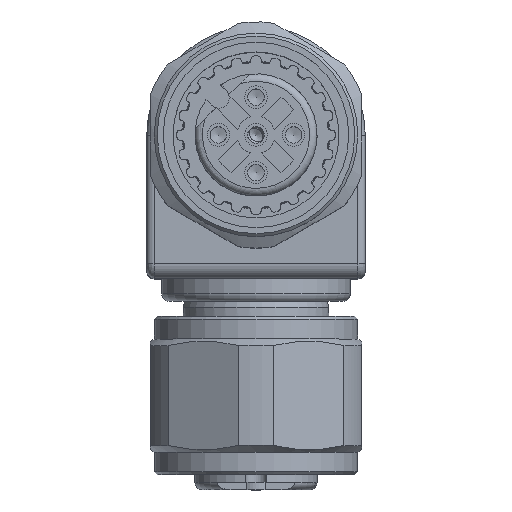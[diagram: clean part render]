
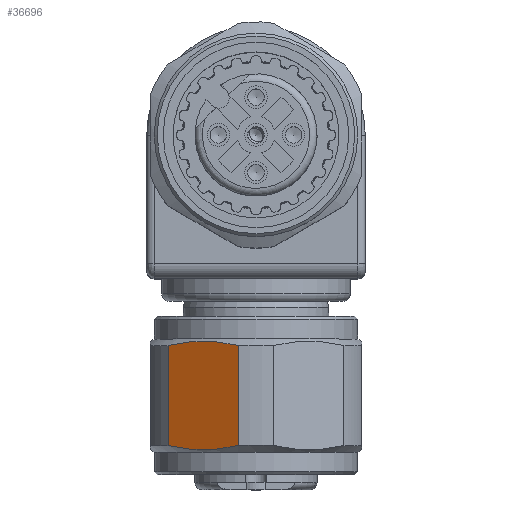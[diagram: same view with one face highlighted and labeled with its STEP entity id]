
A CAD part, top view. The second image highlights one B-rep face of the part: STEP entity #36696.
In plain terms, the highlighted planar face has unit normal (-0.5, 0, 0.866).
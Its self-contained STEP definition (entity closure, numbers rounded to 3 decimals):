
#36643=CARTESIAN_POINT('',(-18.095,-26.723,18.485));
#36644=DIRECTION('',(-0.5,0.,0.866));
#36645=DIRECTION('',(0.866,0.,0.5));
#36646=AXIS2_PLACEMENT_3D('',#36643,#36644,#36645);
#36647=PLANE('',#36646);
#36648=CARTESIAN_POINT('',(-19.263,-18.156,17.811));
#36649=VERTEX_POINT('',#36648);
#36650=CARTESIAN_POINT('',(-23.926,-18.156,15.118));
#36651=VERTEX_POINT('',#36650);
#36652=CARTESIAN_POINT('',(-19.263,-18.156,17.811));
#36653=CARTESIAN_POINT('',(-21.595,-17.598,16.464));
#36654=CARTESIAN_POINT('',(-23.926,-18.156,15.118));
#36662=(BOUNDED_CURVE()B_SPLINE_CURVE(2,(#36652,#36653,#36654),.UNSPECIFIED.,.F.,.U.)B_SPLINE_CURVE_WITH_KNOTS((3,3),(0.0,0.542),.UNSPECIFIED.)CURVE()GEOMETRIC_REPRESENTATION_ITEM()RATIONAL_B_SPLINE_CURVE((1.0,1.071,1.0))REPRESENTATION_ITEM(''));
#36663=EDGE_CURVE('',#36649,#36651,#36662,.T.);
#36664=ORIENTED_EDGE('',*,*,#36663,.T.);
#36665=CARTESIAN_POINT('',(-23.926,-24.79,15.118));
#36666=VERTEX_POINT('',#36665);
#36667=CARTESIAN_POINT('',(-23.926,-18.156,15.118));
#36668=DIRECTION('',(0.0,-1.0,0.0));
#36669=VECTOR('',#36668,6.634);
#36670=LINE('',#36667,#36669);
#36671=EDGE_CURVE('',#36651,#36666,#36670,.T.);
#36672=ORIENTED_EDGE('',*,*,#36671,.T.);
#36673=CARTESIAN_POINT('',(-19.263,-24.79,17.811));
#36674=VERTEX_POINT('',#36673);
#36675=CARTESIAN_POINT('',(-23.926,-24.79,15.118));
#36676=CARTESIAN_POINT('',(-21.595,-25.348,16.464));
#36677=CARTESIAN_POINT('',(-19.263,-24.79,17.811));
#36685=(BOUNDED_CURVE()B_SPLINE_CURVE(2,(#36675,#36676,#36677),.UNSPECIFIED.,.F.,.U.)B_SPLINE_CURVE_WITH_KNOTS((3,3),(0.0,0.542),.UNSPECIFIED.)CURVE()GEOMETRIC_REPRESENTATION_ITEM()RATIONAL_B_SPLINE_CURVE((1.0,1.071,1.0))REPRESENTATION_ITEM(''));
#36686=EDGE_CURVE('',#36666,#36674,#36685,.T.);
#36687=ORIENTED_EDGE('',*,*,#36686,.T.);
#36688=CARTESIAN_POINT('',(-19.263,-24.79,17.811));
#36689=DIRECTION('',(0.0,1.0,0.0));
#36690=VECTOR('',#36689,6.634);
#36691=LINE('',#36688,#36690);
#36692=EDGE_CURVE('',#36674,#36649,#36691,.T.);
#36693=ORIENTED_EDGE('',*,*,#36692,.T.);
#36694=EDGE_LOOP('',(#36664,#36672,#36687,#36693));
#36695=FACE_OUTER_BOUND('',#36694,.T.);
#36696=ADVANCED_FACE('',(#36695),#36647,.T.);
